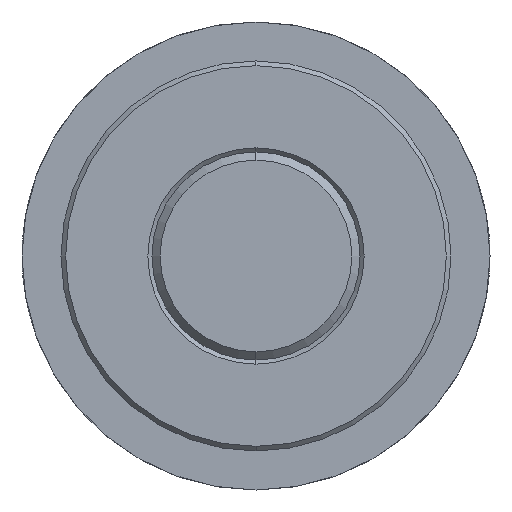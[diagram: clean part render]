
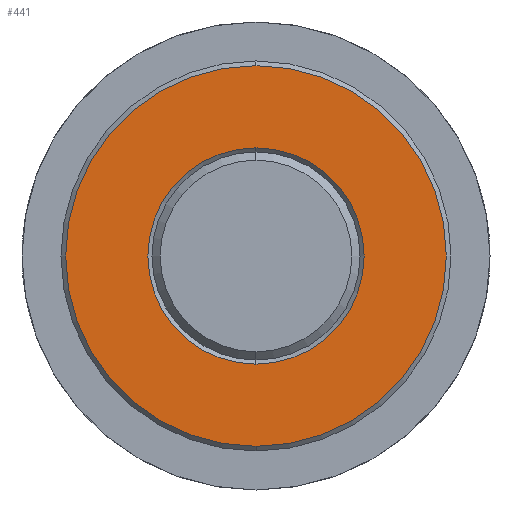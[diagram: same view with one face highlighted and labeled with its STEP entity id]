
A CAD part, left-side view. The second image highlights one B-rep face of the part: STEP entity #441.
In plain terms, the highlighted planar face has unit normal (-1, 0, 0).
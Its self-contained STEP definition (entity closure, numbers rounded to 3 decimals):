
#235=EDGE_CURVE('',#595,#403,#635,.T.);
#251=VERTEX_POINT('',#653);
#271=EDGE_CURVE('',#403,#595,#674,.T.);
#331=EDGE_CURVE('',#251,#453,#740,.T.);
#403=VERTEX_POINT('',#816);
#441=ADVANCED_FACE('',(#860,#861),#862,.T.);
#443=EDGE_CURVE('',#453,#251,#864,.T.);
#453=VERTEX_POINT('',#876);
#595=VERTEX_POINT('',#1034);
#635=CIRCLE('',#1069,8.32);
#653=CARTESIAN_POINT('',(25.0,0.,-14.64));
#674=CIRCLE('',#1124,8.32);
#740=CIRCLE('',#1218,14.64);
#816=CARTESIAN_POINT('',(25.0,0.0,8.32));
#860=FACE_BOUND('',#1409,.T.);
#861=FACE_OUTER_BOUND('',#1410,.T.);
#862=PLANE('',#1411);
#864=CIRCLE('',#1414,14.64);
#876=CARTESIAN_POINT('',(25.0,0.0,14.64));
#1034=CARTESIAN_POINT('',(25.0,0.,-8.32));
#1069=AXIS2_PLACEMENT_3D('',#1741,#1742,#1743);
#1124=AXIS2_PLACEMENT_3D('',#1783,#1784,#1785);
#1218=AXIS2_PLACEMENT_3D('',#1869,#1870,#1871);
#1409=EDGE_LOOP('',(#1981,#1982));
#1410=EDGE_LOOP('',(#1983,#1984));
#1411=AXIS2_PLACEMENT_3D('',#1985,#1986,#1987);
#1414=AXIS2_PLACEMENT_3D('',#1988,#1989,#1990);
#1741=CARTESIAN_POINT('',(25.0,0.0,0.0));
#1742=DIRECTION('',(1.0,0.0,0.));
#1743=DIRECTION('',(0.,0.0,1.0));
#1783=CARTESIAN_POINT('',(25.0,0.0,0.0));
#1784=DIRECTION('',(1.0,0.0,0.));
#1785=DIRECTION('',(0.,0.0,1.0));
#1869=CARTESIAN_POINT('',(25.0,0.0,0.0));
#1870=DIRECTION('',(1.0,0.0,-0.0));
#1871=DIRECTION('',(0.0,0.0,1.0));
#1981=ORIENTED_EDGE('',*,*,#271,.T.);
#1982=ORIENTED_EDGE('',*,*,#235,.T.);
#1983=ORIENTED_EDGE('',*,*,#443,.F.);
#1984=ORIENTED_EDGE('',*,*,#331,.F.);
#1985=CARTESIAN_POINT('',(25.0,0.0,7.32));
#1986=DIRECTION('',(-1.0,-0.0,0.));
#1987=DIRECTION('',(0.,0.0,-1.0));
#1988=CARTESIAN_POINT('',(25.0,0.0,0.0));
#1989=DIRECTION('',(1.0,0.0,-0.0));
#1990=DIRECTION('',(0.0,0.0,1.0));
